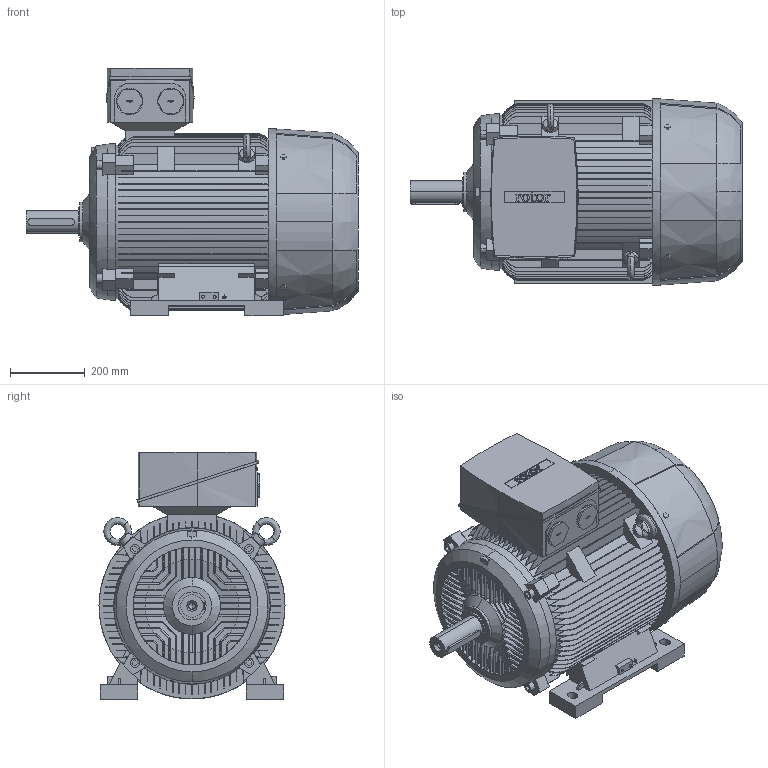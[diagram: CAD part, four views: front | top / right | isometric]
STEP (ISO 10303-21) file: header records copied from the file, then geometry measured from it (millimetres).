
FILE_DESCRIPTION (( 'STEP AP203' ), '1' );
FILE_NAME ('6RN250M02E16 IM1041.STEP', '2017-01-18T10:12:04', ( 'rotor' ), ( 'Hewlett-Packard Company' ), 'SwSTEP 2.0', 'SolidWorks 2015', '' );
FILE_SCHEMA (( 'CONFIG_CONTROL_DESIGN' ));
Length unit declared in the file: millimetre
Products named in the file (1): 6RN250M02E16 IM1041
Bounding box: 887 x 497 x 660 mm (x, y, z)
Volume: 123072198.7 mm3; surface area: 3664914.3 mm2
Topology: 7 solids, 7 shells, 1421 faces, 4026 edges, 2653 vertices
Faces by surface type: plane 864, cylinder 294, bspline 239, cone 24
Entity records: 56964 total; most frequent: CARTESIAN_POINT 22711, ORIENTED_EDGE 8040, DIRECTION 5910, EDGE_CURVE 4020, VERTEX_POINT 2653, VECTOR 2300, LINE 2300, AXIS2_PLACEMENT_3D 1805
